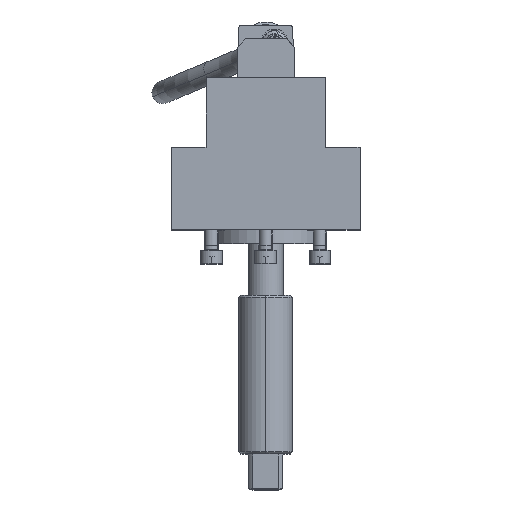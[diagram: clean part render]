
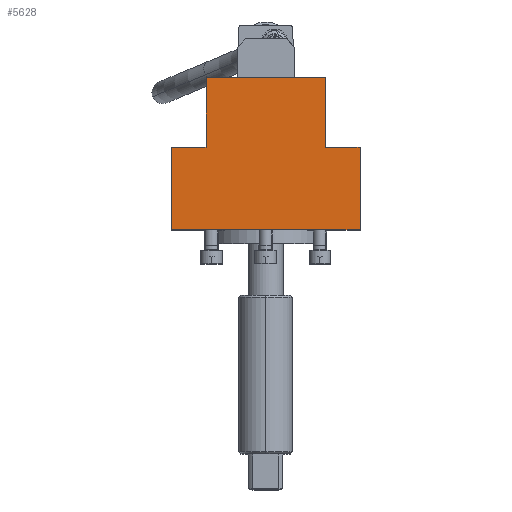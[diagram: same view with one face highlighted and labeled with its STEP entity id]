
A CAD part, top view. The second image highlights one B-rep face of the part: STEP entity #5628.
In plain terms, the highlighted planar face has unit normal (0, 0, 1).
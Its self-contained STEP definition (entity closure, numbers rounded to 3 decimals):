
#5604=AXIS2_PLACEMENT_3D('Plane Axis2P3D',#5601,#5602,#5603) ;
#5118=CARTESIAN_POINT('Vertex',(-69.5,-68.,727.1)) ;
#5121=CARTESIAN_POINT('Line Origine',(-69.5,-37.5,727.1)) ;
#5125=CARTESIAN_POINT('Vertex',(-69.5,-7.,727.1)) ;
#5163=CARTESIAN_POINT('Vertex',(44.,44.,727.1)) ;
#5166=CARTESIAN_POINT('Line Origine',(44.,18.5,727.1)) ;
#5170=CARTESIAN_POINT('Vertex',(44.,-7.,727.1)) ;
#5262=CARTESIAN_POINT('Vertex',(-44.,44.,727.1)) ;
#5265=CARTESIAN_POINT('Line Origine',(0.,44.,727.1)) ;
#5501=CARTESIAN_POINT('Line Origine',(-44.,18.5,727.1)) ;
#5505=CARTESIAN_POINT('Vertex',(-44.,-7.,727.1)) ;
#5527=CARTESIAN_POINT('Line Origine',(56.75,-7.,727.1)) ;
#5531=CARTESIAN_POINT('Vertex',(69.5,-7.,727.1)) ;
#5546=CARTESIAN_POINT('Line Origine',(-56.75,-7.,727.1)) ;
#5601=CARTESIAN_POINT('Axis2P3D Location',(44.,-44.,727.1)) ;
#5606=CARTESIAN_POINT('Line Origine',(0.,-68.,727.1)) ;
#5610=CARTESIAN_POINT('Vertex',(69.5,-68.,727.1)) ;
#5613=CARTESIAN_POINT('Line Origine',(69.5,-37.5,727.1)) ;
#5122=DIRECTION('Vector Direction',(0.,1.,0.)) ;
#5167=DIRECTION('Vector Direction',(0.,1.,0.)) ;
#5266=DIRECTION('Vector Direction',(-1.,0.,0.)) ;
#5502=DIRECTION('Vector Direction',(0.,-1.,0.)) ;
#5528=DIRECTION('Vector Direction',(1.,0.,0.)) ;
#5547=DIRECTION('Vector Direction',(1.,0.,0.)) ;
#5602=DIRECTION('Axis2P3D Direction',(0.,0.,1.)) ;
#5603=DIRECTION('Axis2P3D XDirection',(0.,1.,0.)) ;
#5607=DIRECTION('Vector Direction',(-1.,0.,0.)) ;
#5614=DIRECTION('Vector Direction',(0.,-1.,0.)) ;
#5123=VECTOR('Line Direction',#5122,1.) ;
#5168=VECTOR('Line Direction',#5167,1.) ;
#5267=VECTOR('Line Direction',#5266,1.) ;
#5503=VECTOR('Line Direction',#5502,1.) ;
#5529=VECTOR('Line Direction',#5528,1.) ;
#5548=VECTOR('Line Direction',#5547,1.) ;
#5608=VECTOR('Line Direction',#5607,1.) ;
#5615=VECTOR('Line Direction',#5614,1.) ;
#5619=ORIENTED_EDGE('',*,*,#5550,.T.) ;
#5620=ORIENTED_EDGE('',*,*,#5127,.T.) ;
#5621=ORIENTED_EDGE('',*,*,#5612,.T.) ;
#5622=ORIENTED_EDGE('',*,*,#5617,.T.) ;
#5623=ORIENTED_EDGE('',*,*,#5533,.T.) ;
#5624=ORIENTED_EDGE('',*,*,#5172,.T.) ;
#5625=ORIENTED_EDGE('',*,*,#5269,.T.) ;
#5626=ORIENTED_EDGE('',*,*,#5507,.T.) ;
#5628=ADVANCED_FACE('AW-350.1\\AW3325.1\\Hauptk\X2\00F6\X0\rper',(#5627),#5605,.T.) ;
#5127=EDGE_CURVE('',#5126,#5119,#5124,.F.) ;
#5172=EDGE_CURVE('',#5171,#5164,#5169,.T.) ;
#5269=EDGE_CURVE('',#5164,#5263,#5268,.T.) ;
#5507=EDGE_CURVE('',#5263,#5506,#5504,.T.) ;
#5533=EDGE_CURVE('',#5532,#5171,#5530,.F.) ;
#5550=EDGE_CURVE('',#5506,#5126,#5549,.F.) ;
#5612=EDGE_CURVE('',#5119,#5611,#5609,.F.) ;
#5617=EDGE_CURVE('',#5611,#5532,#5616,.F.) ;
#5618=EDGE_LOOP('',(#5619,#5620,#5621,#5622,#5623,#5624,#5625,#5626)) ;
#5627=FACE_OUTER_BOUND('',#5618,.T.) ;
#5124=LINE('Line',#5121,#5123) ;
#5169=LINE('Line',#5166,#5168) ;
#5268=LINE('Line',#5265,#5267) ;
#5504=LINE('Line',#5501,#5503) ;
#5530=LINE('Line',#5527,#5529) ;
#5549=LINE('Line',#5546,#5548) ;
#5609=LINE('Line',#5606,#5608) ;
#5616=LINE('Line',#5613,#5615) ;
#5605=PLANE('Plane',#5604) ;
#5119=VERTEX_POINT('',#5118) ;
#5126=VERTEX_POINT('',#5125) ;
#5164=VERTEX_POINT('',#5163) ;
#5171=VERTEX_POINT('',#5170) ;
#5263=VERTEX_POINT('',#5262) ;
#5506=VERTEX_POINT('',#5505) ;
#5532=VERTEX_POINT('',#5531) ;
#5611=VERTEX_POINT('',#5610) ;
